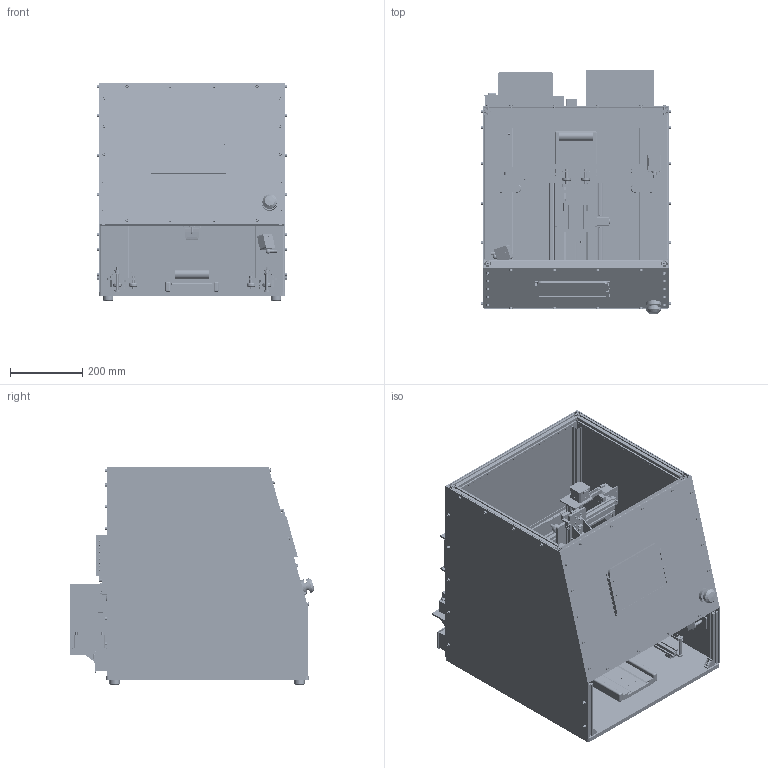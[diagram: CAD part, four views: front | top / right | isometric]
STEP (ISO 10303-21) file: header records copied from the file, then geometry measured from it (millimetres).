
FILE_DESCRIPTION(('Open CASCADE Model'),'2;1');
FILE_NAME('Open CASCADE Shape Model','2026-11-26T01:08:49',('Author'),( 'Open CASCADE'),'Open CASCADE STEP processor 7.9','Open CASCADE 7.9' ,'Unknown');
FILE_SCHEMA(('AUTOMOTIVE_DESIGN { 1 0 10303 214 1 1 1 1 }'));
Length unit declared in the file: millimetre
Products named in the file (382): UltraVena_rig_vscan; electronics_bay; psu_24V_350W; psu_24V_350W__case; psu_24V_350W__internals; psu_24V_350W__terminal_block; psu_24V_350W__terminal_screws; fuse_block; fuse_block__base; fuse_block__blade_fuses; fuse_block__studs; converter_12V_D36V50F12; converter_12V_D36V50F12__board; converter_12V_D36V50F12__inductor; converter_12V_D36V50F12__capacitors; converter_12V_D36V50F12__regulator_ic; converter_12V_standoff; converter_12V_standoff_2; converter_12V_standoff_3; converter_12V_standoff_4; converter_12V_servo_D24V150F12; converter_12V_servo_D24V150F12__board; converter_12V_servo_D24V150F12__inductor; converter_12V_servo_D24V150F12__screw_terminals; converter_12V_servo_D24V150F12__capacitors; converter_12V_servo_standoff; converter_12V_servo_standoff_2; converter_12V_servo_standoff_3; converter_12V_servo_standoff_4; motion_power_relay; motion_power_relay__body; motion_power_relay__terminals; converter_5V_D36V50F5; converter_5V_standoff; converter_5V_standoff_2; converter_5V_standoff_3; converter_5V_standoff_4; usb_hub_powered; usb_hub_powered__case; usb_hub_powered__ports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
Assembly tree (567 placements, depth 10):
  UltraVena_rig_vscan
    electronics_bay
      psu_24V_350W
        psu_24V_350W__case
        psu_24V_350W__internals
        psu_24V_350W__terminal_block
        psu_24V_350W__terminal_screws
      fuse_block
        fuse_block__base
        fuse_block__blade_fuses
        fuse_block__studs
      converter_12V_D36V50F12
        converter_12V_D36V50F12__board
        converter_12V_D36V50F12__inductor
        converter_12V_D36V50F12__capacitors
        converter_12V_D36V50F12__regulator_ic
      converter_12V_standoff
      converter_12V_standoff_2
      converter_12V_standoff_3
      converter_12V_standoff_4
      converter_12V_servo_D24V150F12
        converter_12V_servo_D24V150F12__board
        converter_12V_servo_D24V150F12__inductor
        converter_12V_servo_D24V150F12__screw_terminals
        converter_12V_servo_D24V150F12__capacitors
      converter_12V_servo_standoff
      converter_12V_servo_standoff_2
      converter_12V_servo_standoff_3
      converter_12V_servo_standoff_4
      motion_power_relay
        motion_power_relay__body
        motion_power_relay__terminals
      converter_5V_D36V50F5
        converter_12V_D36V50F12__board
        converter_12V_D36V50F12__inductor
        converter_12V_D36V50F12__capacitors
        converter_12V_D36V50F12__regulator_ic
      converter_5V_standoff
      converter_5V_standoff_2
      converter_5V_standoff_3
      converter_5V_standoff_4
      usb_hub_powered
        usb_hub_powered__case
        usb_hub_powered__ports
        usb_hub_powered__dc_jack
      teensy_4_0
        teensy_4_0__board
        teensy_4_0__mcu
        teensy_4_0__usb_micro
        teensy_4_0__pin_headers
      teensy_carrier
      servo_bus_adapter
        servo_bus_adapter__board
        servo_bus_adapter__usb_c
        servo_bus_adapter__power_terminal
        servo_bus_adapter__servo_sockets
        servo_bus_adapter__uart_chip
      servo_bus_adapter_standoff
      servo_bus_adapter_standoff_2
      servo_bus_adapter_standoff_3
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Bounding box: 526 x 676.93 x 604 mm (x, y, z)
Volume: 12967947.8 mm3; surface area: 5728859.8 mm2
Topology: 534 solids, 534 shells, 5919 faces, 13038 edges, 8494 vertices
Faces by surface type: plane 4381, cylinder 1462, sphere 34, cone 31, bspline 11
Full cylindrical faces by diameter (mm): 2.2 x68, 2.4 x16, 2.5 x16, 2.6 x32, 2.8 x16, 3 x82, 3.2 x14, 3.4 x60, 3.5 x10, 4 x6, 4.2 x40, 4.4 x16, 4.8 x10, 5 x104, 5.1 x42, 5.2 x120, 5.4 x110, 6 x44, 6.2 x10, 6.4 x2, 6.8 x2, 7 x2, 7.2 x1, 7.8 x2, 8 x50, 8.5 x90, 10 x40, 10.2 x2, 10.4 x1, 11 x5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
Entity records: 251972 total; most frequent: CARTESIAN_POINT 57350, DIRECTION 36088, LINE 22637, VECTOR 22637, ORIENTED_EDGE 17660, PCURVE 17660, DEFINITIONAL_REPRESENTATION 17660, EDGE_CURVE 8830
